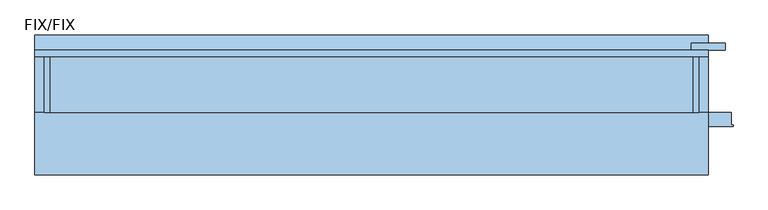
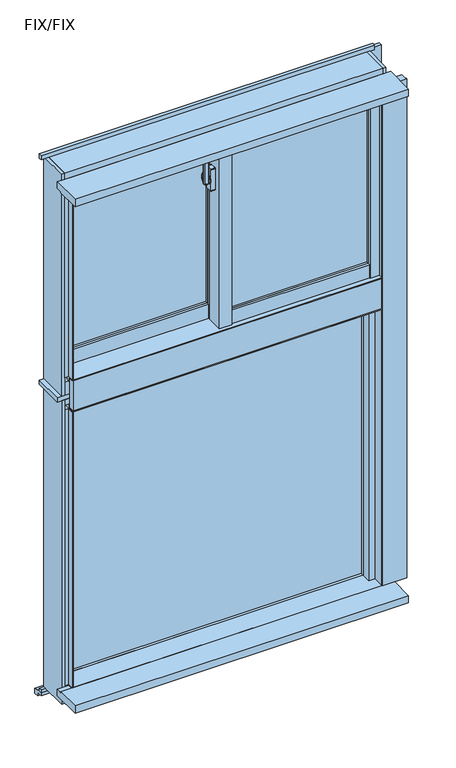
"""IFC4 building model written with IfcOpenShell, lengths in millimetres: window geometry, FNSⅡ100R_非防火_ALC枠_段窓_分解無目 : FIX/FIX."""

from ifc_helpers import new_model, si_unit, point, frame, frame_2d, origin, place, context, project, spatial, polyline, circle_curve, trimmed, segment, composite_curve, outline, extrude, faceted_brep, source, transform, mapped, element, save
from ifc_brep_helpers import plane_surface, cylinder_surface, revolved_surface, advanced_brep


def fix_fix_d4a399a0(model_context):
    return source(origin(), model_context, "Body", "SolidModel", [
        extrude(outline(composite_curve([segment(polyline([(-39.0, 14.6), (-39.0, 6.4)]), True, "CONTINUOUS"), segment(trimmed(circle_curve(frame_2d((-41.0, 6.4)), 2.0), [point((-39.0, 6.4))], [point((-41.3606557, 4.4327869))], False, "CARTESIAN"), True, "CONTINUOUS"), segment(polyline([(-41.3606557, 4.4327869), (-52.3606557, 6.4494536)]), True, "CONTINUOUS"), segment(trimmed(circle_curve(frame_2d((-52.0, 8.4166667)), 2.0), [point((-52.3606557, 6.4494536))], [point((-54.0, 8.4166667))], False, "CARTESIAN"), True, "CONTINUOUS"), segment(polyline([(-54.0, 8.4166667), (-54.0, 12.5833333)]), True, "CONTINUOUS"), segment(trimmed(circle_curve(frame_2d((-52.0, 12.5833333)), 2.0), [point((-54.0, 12.5833333))], [point((-52.3606557, 14.5505464))], False, "CARTESIAN"), True, "CONTINUOUS"), segment(polyline([(-52.3606557, 14.5505464), (-41.3606557, 16.5672131)]), True, "CONTINUOUS"), segment(trimmed(circle_curve(frame_2d((-41.0, 14.6)), 2.0), [point((-41.3606557, 16.5672131))], [point((-39.0, 14.6))], False, "CARTESIAN"), True, "CONTINUOUS")], self_intersect=False)), frame((0.0, 0.0, 2445.0), z_axis=(0.0, 0.0, 1.0), x_axis=(1.0, 0.0, 0.0)), (0.0, 0.0, 1.0), 100.0),
        advanced_brep(
        [(-37.5, 18.8234285, 2476.7333311), (-45.5, 18.8234285, 2476.7333311), (-45.5, 18.4351999, 2475.2844424), (-39.0, 18.4351999, 2475.2844424), (-39.0, 16.6234666, 2468.5229616), (-37.5, 16.6234666, 2468.5229616), (-39.0, 16.6466117, 2434.3190372), (-45.5, 16.6466117, 2434.3190372), (-45.5, 16.907084, 2432.8418256), (-37.5, 16.907084, 2432.8418256), (-37.5, 15.4310745, 2441.2126915), (-39.0, 15.4310745, 2441.2126915)],
        [
            (0, 1),
            (1, 2),
            (2, 3),
            (3, 4),
            (4, 5),
            (5, 0),
            (6, 7),
            (7, 8),
            (8, 9),
            (9, 10),
            (10, 11),
            (11, 6),
            (0, 9, circle_curve(frame((-37.5, 13.0, 2455.0), z_axis=(-1.0, 0.0, 0.0), x_axis=(0.0, 0.25881904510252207, 0.965925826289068)), 22.5)),
            (8, 1, circle_curve(frame((-45.5, 13.0, 2455.0), z_axis=(1.0, 0.0, 0.0), x_axis=(0.0, 0.25881904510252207, 0.965925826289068)), 22.5)),
            (7, 2, circle_curve(frame((-45.5, 13.0, 2455.0), z_axis=(1.0, 0.0, 0.0), x_axis=(0.0, 0.25881904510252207, 0.965925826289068)), 21.0)),
            (6, 3, circle_curve(frame((-39.0, 13.0, 2455.0), z_axis=(1.0, 0.0, 0.0), x_axis=(0.0, 0.25881904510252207, 0.965925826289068)), 21.0)),
            (11, 4, circle_curve(frame((-39.0, 13.0, 2455.0), z_axis=(-1.0, 0.0, 0.0), x_axis=(0.0, -1.0, 0.0)), 14.0)),
            (5, 10, circle_curve(frame((-37.5, 13.0, 2455.0), z_axis=(1.0, 0.0, 0.0), x_axis=(0.0, -1.0, 0.0)), 14.0)),
        ],
        [
            plane_surface(frame((-43.5470497, 13.0, 2455.0), z_axis=(0.0, -0.965925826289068, 0.25881904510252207), x_axis=(0.0, 0.25881904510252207, 0.965925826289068))),
            plane_surface(frame((-43.5470497, 13.0, 2455.0), z_axis=(0.0, -0.9848077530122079, -0.17364817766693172), x_axis=(0.0, 0.17364817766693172, -0.9848077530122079))),
            cylinder_surface(frame((-43.5470497, 13.0, 2455.0), z_axis=(-1.0, 0.0, 0.0), x_axis=(0.0, 0.25881904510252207, 0.965925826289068)), 22.5),
            plane_surface(frame((-45.5, 13.0, 2455.0), z_axis=(-1.0, 0.0, 0.0), x_axis=(0.0, 0.25881904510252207, 0.965925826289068))),
            revolved_surface(polyline([(-45.5, 18.435199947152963, 2475.2844423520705), (-39.0, 18.435199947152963, 2475.2844423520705)]), (-43.5470497, 13.0, 2455.0), (-1.0, 0.0, 0.0)),
            plane_surface(frame((-39.0, 13.0, 2455.0), z_axis=(-1.0, 0.0, 0.0), x_axis=(0.0, 0.25881904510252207, 0.965925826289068))),
            plane_surface(frame((-37.5, 13.0, 2455.0), z_axis=(1.0, 0.0, 0.0), x_axis=(0.0, 0.25881904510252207, 0.965925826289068))),
            cylinder_surface(frame((-37.5, 13.0, 2455.0), z_axis=(-1.0, 0.0, 0.0), x_axis=(0.0, -1.0, 0.0)), 14.0),
        ],
        [
            (0, [[1, 2, 3, 4, 5, 6]]),
            (1, [[7, 8, 9, 10, 11, 12]]),
            (2, [[-1, 13, -9, 14]]),
            (3, [[-2, -14, -8, 15]]),
            (4, [[-3, -15, -7, 16]]),
            (5, [[-16, -12, 17, -4]]),
            (6, [[-13, -6, 18, -10]]),
            (7, [[-17, -11, -18, -5]]),
        ],
    ),
        extrude(outline(composite_curve([segment(trimmed(circle_curve(frame_2d((13.0, 2455.0)), 11.5), [point((24.5, 2455.0))], [point((1.5, 2455.0))], False, "CARTESIAN"), True, "CONTINUOUS"), segment(trimmed(circle_curve(frame_2d((13.0, 2455.0)), 11.5), [point((1.5, 2455.0))], [point((24.5, 2455.0))], False, "CARTESIAN"), True, "CONTINUOUS")], self_intersect=False)), frame((-37.5, 0.0, 0.0), z_axis=(1.0, 0.0, 0.0), x_axis=(0.0, 1.0, 0.0)), (0.0, 0.0, 1.0), 2.5),
        extrude(outline(composite_curve([segment(polyline([(4.0, 2492.5), (22.0, 2492.5)]), True, "CONTINUOUS"), segment(trimmed(circle_curve(frame_2d((22.0, 2490.5)), 2.0), [point((22.0, 2492.5))], [point((24.0, 2490.5))], False, "CARTESIAN"), True, "CONTINUOUS"), segment(polyline([(24.0, 2490.5), (24.0, 2419.5)]), True, "CONTINUOUS"), segment(trimmed(circle_curve(frame_2d((22.0, 2419.5)), 2.0), [point((24.0, 2419.5))], [point((22.0, 2417.5))], False, "CARTESIAN"), True, "CONTINUOUS"), segment(polyline([(22.0, 2417.5), (4.0, 2417.5)]), True, "CONTINUOUS"), segment(trimmed(circle_curve(frame_2d((4.0, 2419.5)), 2.0), [point((4.0, 2417.5))], [point((2.0, 2419.5))], False, "CARTESIAN"), True, "CONTINUOUS"), segment(polyline([(2.0, 2419.5), (2.0, 2490.5)]), True, "CONTINUOUS"), segment(trimmed(circle_curve(frame_2d((4.0, 2490.5)), 2.0), [point((2.0, 2490.5))], [point((4.0, 2492.5))], False, "CARTESIAN"), True, "CONTINUOUS")], self_intersect=False)), frame((-35.0, 0.0, 0.0), z_axis=(1.0, 0.0, 0.0), x_axis=(0.0, 1.0, 0.0)), (0.0, 0.0, 1.0), 15.0),
        extrude(outline(polyline([(20.0, 4.0), (468.0, 4.0), (468.0, -2.0), (20.0, -2.0), (20.0, 4.0)])), frame((0.0, 0.0, 2003.0), z_axis=(0.0, 0.0, 1.0), x_axis=(1.0, 0.0, 0.0)), (0.0, 0.0, 1.0), 567.0),
        extrude(outline(polyline([(20.0, 22.0), (468.0, 22.0), (468.0, 16.0), (20.0, 16.0), (20.0, 22.0)])), frame((0.0, 0.0, 2003.0), z_axis=(0.0, 0.0, 1.0), x_axis=(1.0, 0.0, 0.0)), (0.0, 0.0, 1.0), 567.0),
        extrude(outline(polyline([(-468.0, 62.0), (-20.0, 62.0), (-20.0, 56.0), (-468.0, 56.0), (-468.0, 62.0)])), frame((0.0, 0.0, 2003.0), z_axis=(0.0, 0.0, 1.0), x_axis=(1.0, 0.0, 0.0)), (0.0, 0.0, 1.0), 567.0),
        extrude(outline(polyline([(-468.0, 80.0), (-20.0, 80.0), (-20.0, 74.0), (-468.0, 74.0), (-468.0, 80.0)])), frame((0.0, 0.0, 2003.0), z_axis=(0.0, 0.0, 1.0), x_axis=(1.0, 0.0, 0.0)), (0.0, 0.0, 1.0), 567.0),
        faceted_brep([(-489.5, 59.0, 2610.0), (-500.0, 59.0, 2610.0), (-500.0, 59.0, 1915.0), (-468.0, 59.0, 1915.0), (-468.0, 59.0, 1955.0), (-489.5, 59.0, 1955.0), (-489.5, 46.0, 2610.0), (-489.5, 46.0, 1955.0), (-468.0, 88.0, 2610.0), (-468.0, 46.0, 2610.0), (-468.0, 46.0, 1955.0), (-468.0, 88.0, 1915.0), (-500.0, 88.0, 2610.0), (-500.0, 88.0, 1915.0)], [[[0, 1, 2, 3, 4, 5]], [[6, 0, 5, 7]], [[8, 9, 10, 4, 3, 11]], [[1, 0, 6, 9, 8, 12]], [[3, 2, 13, 11]], [[9, 6, 7, 10]], [[12, 8, 11, 13]], [[2, 1, 12, 13]], [[5, 4, 10, 7]]]),
        faceted_brep([(-1.8, 33.1, 2610.0), (-1.8, 45.5, 2610.0), (-1.8, 45.5, 1955.0), (-1.8, 33.1, 1955.0), (-20.0, 45.5, 2610.0), (20.0, 33.1, 2610.0), (20.0, 88.0, 2610.0), (-20.0, 88.0, 2610.0), (-20.0, 88.0, 1915.0), (20.0, 88.0, 1915.0), (20.0, 59.0, 1915.0), (-20.0, 59.0, 1915.0), (-20.0, 45.5, 1955.0), (20.0, 33.1, 1955.0), (20.0, 59.0, 1955.0), (-20.0, 59.0, 1955.0)], [[[0, 1, 2, 3]], [[4, 1, 0, 5, 6, 7]], [[8, 9, 10, 11]], [[1, 4, 12, 2]], [[5, 0, 3, 13]], [[6, 5, 13, 14, 10, 9]], [[7, 6, 9, 8]], [[4, 7, 8, 11, 15, 12]], [[14, 15, 11, 10]], [[15, 14, 13, 3, 2, 12]]]),
        extrude(outline(polyline([(-20.0, 33.1), (-15.0, 33.1), (-15.0, -12.0), (15.0, -12.0), (15.0, -8.0), (20.0, -8.0), (20.0, -20.0), (-20.0, -20.0), (-20.0, 33.1)])), frame((0.0, 0.0, 1955.0), z_axis=(0.0, 0.0, 1.0), x_axis=(1.0, 0.0, 0.0)), (0.0, 0.0, 1.0), 655.0),
        extrude(outline(polyline([(-15.0, 33.1), (20.0, 33.1), (20.0, -8.0), (15.0, -8.0), (15.0, -12.0), (-15.0, -12.0), (-15.0, 33.1)])), frame((0.0, 0.0, 1955.0), z_axis=(0.0, 0.0, 1.0), x_axis=(1.0, 0.0, 0.0)), (0.0, 0.0, 1.0), 655.0),
        extrude(outline(polyline([(468.0, -20.0), (468.0, -12.0), (489.5, -12.0), (489.5, 1.0), (497.0, 1.0), (497.0, -20.0), (468.0, -20.0)])), frame((0.0, 0.0, 1958.0), z_axis=(0.0, 0.0, 1.0), x_axis=(1.0, 0.0, 0.0)), (0.0, 0.0, 1.0), 652.0),
        extrude(outline(polyline([(468.0, 30.0), (500.0, 30.0), (500.0, 1.0), (489.5, 1.0), (489.5, -12.0), (468.0, -12.0), (468.0, 30.0)])), frame((0.0, 0.0, 1955.0), z_axis=(0.0, 0.0, 1.0), x_axis=(1.0, 0.0, 0.0)), (0.0, 0.0, 1.0), 655.0),
        extrude(outline(polyline([(-1.85, 45.5), (-1.85, 38.0), (-20.0, 38.0), (-20.0, 45.5), (-1.85, 45.5)])), frame((0.0, 0.0, 1955.0), z_axis=(0.0, 0.0, 1.0), x_axis=(1.0, 0.0, 0.0)), (0.0, 0.0, 1.0), 655.0),
        extrude(outline(polyline([(-497.0, 59.0), (-489.5, 59.0), (-489.5, 46.0), (-468.0, 46.0), (-468.0, 38.0), (-497.0, 38.0), (-497.0, 59.0)])), frame((0.0, 0.0, 1955.0), z_axis=(0.0, 0.0, 1.0), x_axis=(1.0, 0.0, 0.0)), (0.0, 0.0, 1.0), 655.0),
        extrude(outline(polyline([(-18.0, 1958.0), (-18.0, 2003.0), (-10.0, 2003.0), (-10.0, 1980.5), (1.0, 1980.5), (1.0, 1958.0), (-18.0, 1958.0)])), frame((20.0, 0.0, 0.0), z_axis=(1.0, 0.0, 0.0), x_axis=(0.0, 1.0, 0.0)), (0.0, 0.0, 1.0), 448.0),
        extrude(outline(polyline([(30.0, 1955.0), (1.0, 1955.0), (1.0, 1980.5), (-10.0, 1980.5), (-10.0, 2003.0), (30.0, 2003.0), (30.0, 1955.0)])), frame((20.0, 0.0, 0.0), z_axis=(1.0, 0.0, 0.0), x_axis=(0.0, 1.0, 0.0)), (0.0, 0.0, 1.0), 448.0),
        extrude(outline(polyline([(40.0, 2003.0), (48.0, 2003.0), (48.0, 1980.5), (59.0, 1980.5), (59.0, 1955.0), (40.0, 1955.0), (40.0, 2003.0)])), frame((-468.0, 0.0, 0.0), z_axis=(1.0, 0.0, 0.0), x_axis=(0.0, 1.0, 0.0)), (0.0, 0.0, 1.0), 448.0),
        extrude(outline(polyline([(88.0, 1915.0), (59.0, 1915.0), (59.0, 1980.5), (48.0, 1980.5), (48.0, 2003.0), (88.0, 2003.0), (88.0, 1915.0)])), frame((-468.0, 0.0, 0.0), z_axis=(1.0, 0.0, 0.0), x_axis=(0.0, 1.0, 0.0)), (0.0, 0.0, 1.0), 448.0),
        extrude(outline(polyline([(3.0, 2590.5), (-10.0, 2590.5), (-10.0, 2570.0), (-18.0, 2570.0), (-18.0, 2610.0), (3.0, 2610.0), (3.0, 2590.5)])), frame((20.0, 0.0, 0.0), z_axis=(1.0, 0.0, 0.0), x_axis=(0.0, 1.0, 0.0)), (0.0, 0.0, 1.0), 448.0),
        extrude(outline(polyline([(30.0, 2610.0), (30.0, 2570.0), (-10.0, 2570.0), (-10.0, 2590.5), (3.0, 2590.5), (3.0, 2610.0), (30.0, 2610.0)])), frame((20.0, 0.0, 0.0), z_axis=(1.0, 0.0, 0.0), x_axis=(0.0, 1.0, 0.0)), (0.0, 0.0, 1.0), 448.0),
        extrude(outline(polyline([(61.0, 2590.5), (48.0, 2590.5), (48.0, 2570.0), (40.0, 2570.0), (40.0, 2610.0), (61.0, 2610.0), (61.0, 2590.5)])), frame((-468.0, 0.0, 0.0), z_axis=(1.0, 0.0, 0.0), x_axis=(0.0, 1.0, 0.0)), (0.0, 0.0, 1.0), 448.0),
        extrude(outline(polyline([(88.0, 2610.0), (88.0, 2570.0), (48.0, 2570.0), (48.0, 2590.5), (61.0, 2590.5), (61.0, 2610.0), (88.0, 2610.0)])), frame((-468.0, 0.0, 0.0), z_axis=(1.0, 0.0, 0.0), x_axis=(0.0, 1.0, 0.0)), (0.0, 0.0, 1.0), 448.0),
        extrude(outline(polyline([(-15.0, 60.3), (-15.0, 11.9), (-500.0, 11.9), (-500.0, 60.3), (-15.0, 60.3)])), frame((0.0, 0.0, 2610.0), z_axis=(0.0, 0.0, 1.0), x_axis=(1.0, 0.0, 0.0)), (0.0, 0.0, 1.0), 25.0),
        faceted_brep([(515.0, -10.0, 2635.0), (515.0, -10.0, 2655.0), (-515.0, -10.0, 2655.0), (-515.0, -10.0, 2635.0), (-515.0, 90.0, 2610.0), (-515.0, 60.3, 2610.0), (-515.0, 60.3, 2635.0), (-515.0, 90.0, 2655.0), (515.0, 60.3, 2635.0), (-15.0, 60.3, 2635.0), (-15.0, 11.9, 2635.0), (500.0, 11.9, 2635.0), (500.0, 60.3, 2635.0), (-15.0, 60.3, 2610.0), (515.0, 60.3, 2610.0), (500.0, 60.3, 2610.0), (515.0, 90.0, 2610.0), (500.0, 11.9, 2610.0), (-15.0, 11.9, 2610.0), (515.0, 90.0, 2655.0)], [[[0, 1, 2, 3]], [[4, 5, 6, 3, 2, 7]], [[8, 0, 3, 6, 9, 10, 11, 12]], [[6, 5, 13, 9]], [[14, 8, 12, 15]], [[16, 14, 15, 17, 18, 13, 5, 4]], [[19, 16, 4, 7]], [[1, 19, 7, 2]], [[16, 19, 1, 0, 8, 14]], [[11, 17, 15, 12]], [[13, 18, 10, 9]], [[17, 11, 10, 18]]]),
        extrude(outline(polyline([(11.9, 2610.0), (-30.0, 2610.0), (-30.0, 2613.0), (-10.0, 2613.0), (-10.0, 2635.0), (11.9, 2635.0), (11.9, 2610.0)])), frame((-500.0, 0.0, 0.0), z_axis=(1.0, 0.0, 0.0), x_axis=(0.0, 1.0, 0.0)), (0.0, 0.0, 1.0), 1000.0),
        faceted_brep([(500.0, -30.0, 1955.0), (503.0, -30.0, 1955.0), (503.0, -30.0, 2613.0), (500.0, -30.0, 2613.0), (500.0, -5.5, 2630.0), (515.0, -5.5, 2630.0), (515.0, -5.5, 1955.0), (500.0, -5.5, 1955.0), (500.0, -10.0, 2613.0), (500.0, -10.0, 2630.0), (503.0, -10.0, 2613.0), (515.0, -10.0, 2630.0), (515.0, -10.0, 1955.0), (503.0, -10.0, 1955.0)], [[[0, 1, 2, 3]], [[4, 5, 6, 7]], [[7, 0, 3, 8, 9, 4]], [[10, 8, 3, 2]], [[9, 11, 5, 4]], [[0, 7, 6, 12, 13, 1]], [[1, 13, 10, 2]], [[9, 8, 10, 13, 12, 11]], [[5, 11, 12, 6]]]),
        faceted_brep([(-515.0, 56.0, 2630.0), (-500.0, 56.0, 2630.0), (-500.0, 56.0, 1955.0), (-515.0, 56.0, 1955.0), (-515.0, -10.0, 1955.0), (-503.0, -10.0, 1955.0), (-503.0, -10.0, 2613.0), (-500.0, -10.0, 2613.0), (-500.0, -10.0, 2630.0), (-515.0, -10.0, 2630.0), (-503.0, -30.0, 2613.0), (-500.0, -30.0, 2613.0), (-500.0, -30.0, 1955.0), (-503.0, -30.0, 1955.0)], [[[0, 1, 2, 3]], [[4, 5, 6, 7, 8, 9]], [[7, 6, 10, 11]], [[9, 8, 1, 0]], [[4, 3, 2, 12, 13, 5]], [[5, 13, 10, 6]], [[13, 12, 11, 10]], [[12, 2, 1, 8, 7, 11]], [[4, 9, 0, 3]]]),
        faceted_brep([(-525.0, 90.0, 1895.0), (-515.0, 90.0, 1895.0), (-515.0, -10.0, 1895.0), (-525.0, -10.0, 1895.0), (-515.0, -10.0, 2655.0), (-525.0, -10.0, 2655.0), (-500.0, 90.0, 1904.0), (-500.0, 56.0, 1904.0), (-515.0, 56.0, 1904.0), (-515.0, 90.0, 1904.0), (-500.0, 56.0, 2610.0), (-515.0, 56.0, 2610.0), (-525.0, 90.0, 2655.0), (-515.0, 90.0, 2655.0), (-515.0, 90.0, 2610.0), (-500.0, 90.0, 2610.0)], [[[0, 1, 2, 3]], [[4, 5, 3, 2]], [[6, 7, 8, 9]], [[10, 11, 8, 7]], [[12, 5, 4, 13]], [[5, 12, 0, 3]], [[13, 4, 2, 1, 9, 8, 11, 14]], [[12, 13, 14, 15, 6, 9, 1, 0]], [[15, 14, 11, 10]], [[15, 10, 7, 6]]]),
        faceted_brep([(515.0, -10.0, 1895.0), (515.0, 90.0, 1895.0), (525.0, 90.0, 1895.0), (525.0, -10.0, 1895.0), (500.0, -5.5, 1904.0), (500.0, 90.0, 1904.0), (515.0, 90.0, 1904.0), (515.0, -5.5, 1904.0), (515.0, -10.0, 2655.0), (515.0, 90.0, 2655.0), (515.0, 90.0, 2610.0), (515.0, -5.5, 2610.0), (500.0, -5.5, 2610.0), (525.0, 90.0, 2655.0), (500.0, 90.0, 2610.0), (525.0, -10.0, 2655.0)], [[[0, 1, 2, 3]], [[4, 5, 6, 7]], [[8, 9, 10, 11, 7, 6, 1, 0]], [[11, 12, 4, 7]], [[9, 13, 2, 1, 6, 5, 14, 10]], [[8, 15, 13, 9]], [[12, 14, 5, 4]], [[12, 11, 10, 14]], [[15, 8, 0, 3]], [[13, 15, 3, 2]]]),
        faceted_brep([(515.0, 56.0, 1904.0), (515.0, 90.0, 1904.0), (-515.0, 90.0, 1904.0), (-515.0, 56.0, 1904.0), (515.0, 56.0, 1939.0), (-515.0, 56.0, 1939.0), (515.0, 90.0, 1895.0), (515.0, -10.0, 1895.0), (-515.0, -10.0, 1895.0), (-515.0, 90.0, 1895.0), (515.0, -10.0, 1939.0), (-515.0, -10.0, 1939.0), (500.0, 17.25, 1939.0), (500.0, -1.2, 1939.0), (-15.0, -1.2, 1939.0), (-15.0, 17.25, 1939.0), (500.0, -1.2, 1955.0), (500.0, 17.25, 1955.0), (-15.0, -1.2, 1955.0), (-15.0, 17.25, 1955.0)], [[[0, 1, 2, 3]], [[4, 0, 3, 5]], [[6, 7, 8, 9]], [[10, 4, 5, 11], [12, 13, 14, 15]], [[6, 1, 0, 4, 10, 7]], [[9, 8, 11, 5, 3, 2]], [[7, 10, 11, 8]], [[1, 6, 9, 2]], [[16, 13, 12, 17]], [[18, 19, 15, 14]], [[13, 16, 18, 14]], [[17, 12, 15, 19]], [[16, 17, 19, 18]]]),
        faceted_brep([(-503.0, -10.0, 1939.0), (-503.0, -10.0, 1952.0), (-503.0, -30.0, 1952.0), (-503.0, -30.0, 1955.0), (-503.0, -1.2, 1955.0), (-503.0, -1.2, 1939.0), (503.0, -10.0, 1952.0), (503.0, -30.0, 1952.0), (503.0, -30.0, 1955.0), (503.0, -5.5, 1955.0), (500.0, -5.5, 1955.0), (500.0, -1.2, 1955.0), (-15.0, -1.2, 1955.0), (-15.0, 56.0, 1955.0), (-500.0, 56.0, 1955.0), (-500.0, -1.2, 1955.0), (-500.0, -1.2, 1939.0), (500.0, -1.2, 1939.0), (-15.0, -1.2, 1939.0), (503.0, -10.0, 1939.0), (503.0, -5.5, 1939.0), (-500.0, 56.0, 1939.0), (-15.0, 56.0, 1939.0), (500.0, -5.5, 1939.0)], [[[0, 1, 2, 3, 4, 5]], [[6, 7, 2, 1]], [[7, 8, 3, 2]], [[4, 3, 8, 9, 10, 11, 12, 13, 14, 15]], [[5, 4, 15, 16]], [[11, 17, 18, 12]], [[8, 7, 6, 19, 20, 9]], [[19, 6, 1, 0]], [[0, 5, 16, 21, 22, 18, 17, 23, 20, 19]], [[10, 23, 17, 11]], [[23, 10, 9, 20]], [[13, 12, 18, 22]], [[14, 21, 16, 15]], [[13, 22, 21, 14]]]),
        extrude(outline(polyline([(-480.0, 55.6), (480.0, 55.6), (480.0, 49.6), (-480.0, 49.6), (-480.0, 55.6)])), frame((0.0, 0.0, 900.0), z_axis=(0.0, 0.0, 1.0), x_axis=(1.0, 0.0, 0.0)), (0.0, 0.0, 1.0), 925.0),
        extrude(outline(polyline([(-480.0, 73.6), (480.0, 73.6), (480.0, 67.6), (-480.0, 67.6), (-480.0, 73.6)])), frame((0.0, 0.0, 900.0), z_axis=(0.0, 0.0, 1.0), x_axis=(1.0, 0.0, 0.0)), (0.0, 0.0, 1.0), 925.0),
        faceted_brep([(-480.0, 40.0, 1825.0), (-515.0, 40.0, 1825.0), (-515.0, 40.0, 900.0), (-480.0, 40.0, 900.0), (-480.0, 90.0, 1825.0), (-480.0, 90.0, 900.0), (-515.0, 90.0, 1880.0), (-515.0, -10.0, 1880.0), (-515.0, -10.0, 840.0), (-515.0, 90.0, 840.0), (-515.0, 90.0, 900.0), (-515.0, 90.0, 1825.0), (-525.0, 90.0, 1880.0), (-525.0, -10.0, 1880.0), (-525.0, 90.0, 840.0), (-525.0, -10.0, 840.0)], [[[0, 1, 2, 3]], [[4, 0, 3, 5]], [[6, 7, 8, 9, 10, 2, 1, 11]], [[5, 3, 2, 10]], [[12, 13, 7, 6]], [[14, 9, 8, 15]], [[13, 12, 14, 15]], [[7, 13, 15, 8]], [[12, 6, 11, 4, 5, 10, 9, 14]], [[4, 11, 1, 0]]]),
        faceted_brep([(480.0, 40.0, 1825.0), (480.0, 90.0, 1825.0), (480.0, 90.0, 900.0), (480.0, 40.0, 900.0), (515.0, 40.0, 1825.0), (515.0, 40.0, 900.0), (525.0, -10.0, 1880.0), (515.0, -10.0, 1880.0), (515.0, -10.0, 840.0), (525.0, -10.0, 840.0), (525.0, 90.0, 1880.0), (525.0, 90.0, 840.0), (515.0, 90.0, 900.0), (515.0, 90.0, 1880.0), (515.0, 90.0, 840.0), (515.0, 90.0, 1825.0)], [[[0, 1, 2, 3]], [[4, 0, 3, 5]], [[6, 7, 8, 9]], [[10, 6, 9, 11]], [[5, 3, 2, 12]], [[10, 13, 7, 6]], [[11, 9, 8, 14]], [[13, 10, 11, 14, 12, 2, 1, 15]], [[7, 13, 15, 4, 5, 12, 14, 8]], [[15, 1, 0, 4]]]),
        extrude(outline(polyline([(500.0, -30.0), (500.0, 8.5), (480.0, 8.5), (480.0, 40.0), (515.0, 40.0), (515.0, -10.0), (503.0, -10.0), (503.0, -30.0), (500.0, -30.0)])), frame((0.0, 0.0, 900.0), z_axis=(0.0, 0.0, 1.0), x_axis=(1.0, 0.0, 0.0)), (0.0, 0.0, 1.0), 945.0),
        extrude(outline(polyline([(-515.0, -10.0), (-515.0, 40.0), (-480.0, 40.0), (-480.0, 8.5), (-500.0, 8.5), (-500.0, -30.0), (-503.0, -30.0), (-503.0, -10.0), (-515.0, -10.0)])), frame((0.0, 0.0, 900.0), z_axis=(0.0, 0.0, 1.0), x_axis=(1.0, 0.0, 0.0)), (0.0, 0.0, 1.0), 945.0),
        extrude(outline(polyline([(-10.0, 884.0), (-10.0, 897.0), (-30.0, 897.0), (-30.0, 900.0), (40.0, 900.0), (40.0, 884.0), (-10.0, 884.0)])), frame((-503.0, 0.0, 0.0), z_axis=(1.0, 0.0, 0.0), x_axis=(0.0, 1.0, 0.0)), (0.0, 0.0, 1.0), 1006.0),
        extrude(outline(polyline([(90.0, 840.0), (-10.0, 840.0), (-10.0, 884.0), (40.0, 884.0), (40.0, 900.0), (90.0, 900.0), (90.0, 870.0), (71.0, 870.0), (71.0, 850.0), (90.0, 850.0), (90.0, 840.0)])), frame((-515.0, 0.0, 0.0), z_axis=(1.0, 0.0, 0.0), x_axis=(0.0, 1.0, 0.0)), (0.0, 0.0, 1.0), 1030.0),
        extrude(outline(polyline([(40.0, 1822.0), (6.0, 1822.0), (6.0, 1845.0), (-30.0, 1845.0), (-30.0, 1848.0), (-10.0, 1848.0), (-10.0, 1860.0), (40.0, 1860.0), (40.0, 1822.0)])), frame((-503.0, 0.0, 0.0), z_axis=(1.0, 0.0, 0.0), x_axis=(0.0, 1.0, 0.0)), (0.0, 0.0, 1.0), 1006.0),
        extrude(outline(polyline([(90.0, 1825.0), (40.0, 1825.0), (40.0, 1860.0), (-10.0, 1860.0), (-10.0, 1880.0), (90.0, 1880.0), (90.0, 1825.0)])), frame((-515.0, 0.0, 0.0), z_axis=(1.0, 0.0, 0.0), x_axis=(0.0, 1.0, 0.0)), (0.0, 0.0, 1.0), 1030.0),
        extrude(outline(polyline([(-110.0, 900.0), (-30.0, 900.0), (-30.0, 897.0), (-10.0, 897.0), (-10.0, 875.0), (-110.0, 875.0), (-110.0, 900.0)])), frame((-540.0, 0.0, 0.0), z_axis=(1.0, 0.0, 0.0), x_axis=(0.0, 1.0, 0.0)), (0.0, 0.0, 1.0), 1080.0),
        extrude(outline(polyline([(-540.0, 80.0), (-540.0, 90.0), (540.0, 90.0), (540.0, 80.0), (-540.0, 80.0)])), frame((0.0, 0.0, 830.0), z_axis=(0.0, 0.0, 1.0), x_axis=(1.0, 0.0, 0.0)), (0.0, 0.0, 1.0), 10.0),
        extrude(outline(polyline([(100.0, 807.0), (100.0, 820.0), (80.0, 820.0), (80.0, 830.0), (90.0, 830.0), (115.0, 825.0), (115.0, 807.0), (100.0, 807.0)])), frame((-540.0, 0.0, 0.0), z_axis=(1.0, 0.0, 0.0), x_axis=(0.0, 1.0, 0.0)), (0.0, 0.0, 1.0), 1080.0),
        extrude(outline(polyline([(503.0, -30.0), (503.0, -10.0), (577.0, -10.0), (577.0, -30.0), (580.0, -30.0), (580.0, -32.5), (500.0, -32.5), (500.0, -30.0), (503.0, -30.0)])), frame((0.0, 0.0, 900.0), z_axis=(0.0, 0.0, 1.0), x_axis=(1.0, 0.0, 0.0)), (0.0, 0.0, 1.0), 1710.0),
        extrude(outline(polyline([(567.5, 90.0), (512.5, 90.0), (512.5, 102.0), (567.5, 102.0), (567.5, 90.0)])), frame((0.0, 0.0, 840.0), z_axis=(0.0, 0.0, 1.0), x_axis=(1.0, 0.0, 0.0)), (0.0, 0.0, 1.0), 1815.0),
        extrude(outline(polyline([(-110.0, 2635.0), (-10.0, 2635.0), (-10.0, 2613.0), (-30.0, 2613.0), (-30.0, 2610.0), (-110.0, 2610.0), (-110.0, 2635.0)])), frame((-540.0, 0.0, 0.0), z_axis=(1.0, 0.0, 0.0), x_axis=(0.0, 1.0, 0.0)), (0.0, 0.0, 1.0), 1080.0),
        extrude(outline(polyline([(-500.0, -30.0), (-500.0, -10.0), (500.0, -10.0), (500.0, -30.0), (-500.0, -30.0)])), frame((0.0, 0.0, 1848.0), z_axis=(0.0, 0.0, 1.0), x_axis=(1.0, 0.0, 0.0)), (0.0, 0.0, 1.0), 104.0),
        extrude(outline(polyline([(-540.0, -10.0), (-540.0, 90.0), (540.0, 90.0), (540.0, -10.0), (-540.0, -10.0)])), frame((0.0, 0.0, 1880.0), z_axis=(0.0, 0.0, 1.0), x_axis=(1.0, 0.0, 0.0)), (0.0, 0.0, 1.0), 15.0),
        extrude(outline(polyline([(-540.0, 80.0), (-540.0, 90.0), (540.0, 90.0), (540.0, 80.0), (-540.0, 80.0)])), frame((0.0, 0.0, 2655.0), z_axis=(0.0, 0.0, 1.0), x_axis=(1.0, 0.0, 0.0)), (0.0, 0.0, 1.0), 15.0),
    ])


if __name__ == "__main__":
    model = new_model("IFC4")
    model_context = context("Model", 3, world=origin())
    ifc_project = project(units=[si_unit("LENGTHUNIT", "METRE", prefix="MILLI")], contexts=[model_context])
    site = spatial("IfcSite", under=ifc_project)
    building = spatial("IfcBuilding", under=site)
    placement = place(None, origin())
    fix_fix_shape = fix_fix_d4a399a0(model_context)
    element("IfcWindow", 1, ObjectType="FNSⅡ100R_非防火_ALC枠_段窓_分解無目 : FIX/FIX", at=placement, inside=building, context=model_context, shape_type="MappedRepresentation", body=[
        mapped(fix_fix_shape, transform((0.0, 0.0, 0.0), x_axis=(1.0, 0.0, 0.0), y_axis=(0.0, 1.0, 0.0), z_axis=(0.0, 0.0, 1.0))),
    ])
    save(model, "model.ifc")
